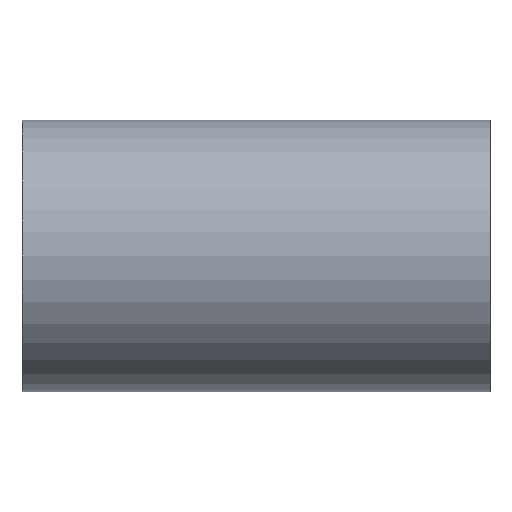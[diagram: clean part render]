
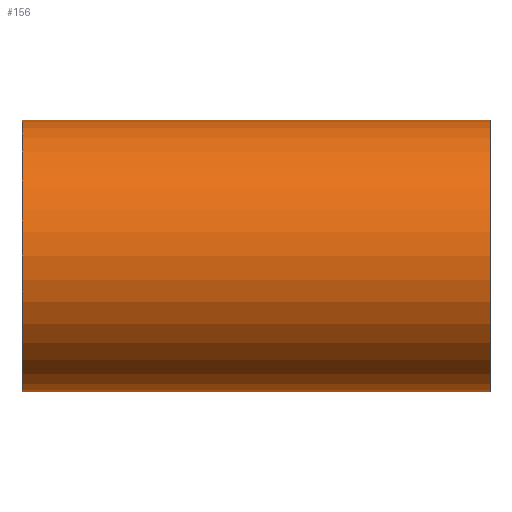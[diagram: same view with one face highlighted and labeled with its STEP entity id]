
A CAD part, front view. The second image highlights one B-rep face of the part: STEP entity #156.
In plain terms, the highlighted cylindrical face has radius 725 mm (diameter 1450 mm), a partial arc.
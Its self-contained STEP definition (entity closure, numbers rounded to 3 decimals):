
#156=ADVANCED_FACE('',(#308),#309,.T.);
#308=FACE_OUTER_BOUND('',#495,.T.);
#309=CYLINDRICAL_SURFACE('',#496,725.0);
#495=EDGE_LOOP('',(#891,#892,#893,#894));
#496=AXIS2_PLACEMENT_3D('',#895,#896,#897);
#891=ORIENTED_EDGE('',*,*,#995,.T.);
#892=ORIENTED_EDGE('',*,*,#1168,.F.);
#893=ORIENTED_EDGE('',*,*,#997,.T.);
#894=ORIENTED_EDGE('',*,*,#1169,.F.);
#895=CARTESIAN_POINT('',(0.0,0.0,0.0));
#896=DIRECTION('',(1.0,0.0,0.0));
#897=DIRECTION('',(0.0,0.0,-1.0));
#995=EDGE_CURVE('',#1173,#1174,#1175,.T.);
#997=EDGE_CURVE('',#1178,#1176,#1179,.T.);
#1168=EDGE_CURVE('',#1178,#1174,#1434,.T.);
#1169=EDGE_CURVE('',#1173,#1176,#1435,.T.);
#1173=VERTEX_POINT('',#1439);
#1174=VERTEX_POINT('',#1440);
#1175=LINE('',#1441,#1442);
#1176=VERTEX_POINT('',#1443);
#1178=VERTEX_POINT('',#1445);
#1179=LINE('',#1446,#1447);
#1434=CIRCLE('',#1744,725.0);
#1435=CIRCLE('',#1745,725.0);
#1439=CARTESIAN_POINT('',(-1250.0,0.0,-725.0));
#1440=CARTESIAN_POINT('',(1250.0,0.0,-725.0));
#1441=CARTESIAN_POINT('',(0.0,0.,-725.0));
#1442=VECTOR('',#1748,1.0);
#1443=CARTESIAN_POINT('',(-1250.0,0.,725.0));
#1445=CARTESIAN_POINT('',(1250.0,0.,725.0));
#1446=CARTESIAN_POINT('',(0.0,0.,725.0));
#1447=VECTOR('',#1752,1.0);
#1744=AXIS2_PLACEMENT_3D('',#2050,#2051,#2052);
#1745=AXIS2_PLACEMENT_3D('',#2053,#2054,#2055);
#1748=DIRECTION('',(1.0,0.0,0.0));
#1752=DIRECTION('',(-1.0,-0.0,-0.0));
#2050=CARTESIAN_POINT('',(1250.0,0.0,0.0));
#2051=DIRECTION('',(1.0,0.0,0.0));
#2052=DIRECTION('',(0.0,0.0,-1.0));
#2053=CARTESIAN_POINT('',(-1250.0,0.0,0.0));
#2054=DIRECTION('',(-1.0,0.0,0.0));
#2055=DIRECTION('',(0.0,0.0,-1.0));
